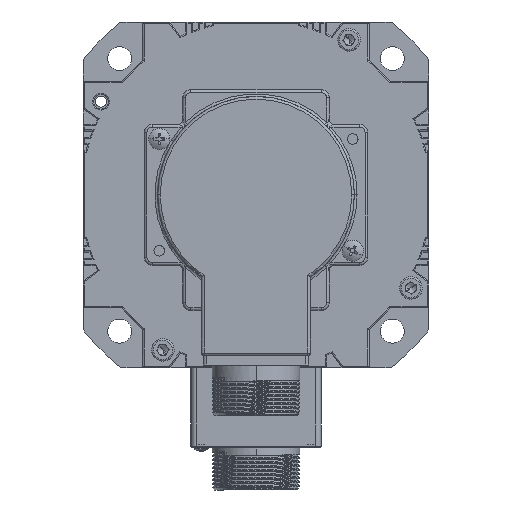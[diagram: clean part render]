
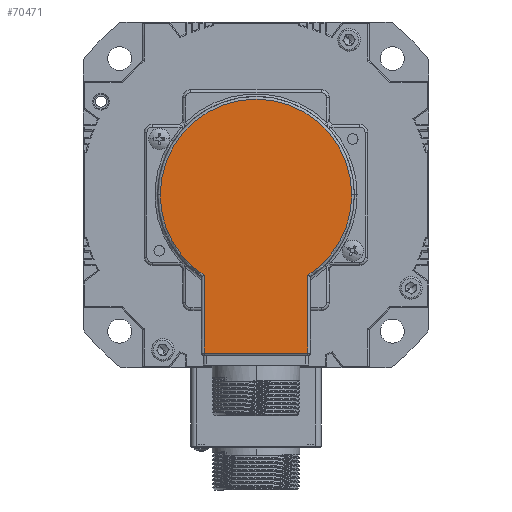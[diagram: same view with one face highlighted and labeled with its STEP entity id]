
A CAD part, front view. The second image highlights one B-rep face of the part: STEP entity #70471.
In plain terms, the highlighted planar face has unit normal (0, -1, 0) as drawn and (0, 0, -1) by its records, which use the part's own axes.
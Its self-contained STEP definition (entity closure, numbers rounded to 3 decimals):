
#646 = DIRECTION ( 'NONE',  ( 0., 0., -1. ) ) ;
#1217 = DIRECTION ( 'NONE',  ( 0., 0., -1. ) ) ;
#4083 = CIRCLE ( 'NONE', #68588, 36. ) ;
#4929 = VERTEX_POINT ( 'NONE', #18164 ) ;
#5444 = EDGE_CURVE ( 'NONE', #5708, #4929, #24228, .T. ) ;
#5708 = VERTEX_POINT ( 'NONE', #38011 ) ;
#6612 = CARTESIAN_POINT ( 'NONE',  ( -19.5, 59.5, -33. ) ) ;
#9641 = EDGE_CURVE ( 'NONE', #4929, #38706, #28112, .T. ) ;
#11363 = AXIS2_PLACEMENT_3D ( 'NONE', #13471, #12735, #52664 ) ;
#11633 = DIRECTION ( 'NONE',  ( 0., -1., 0. ) ) ;
#12735 = DIRECTION ( 'NONE',  ( 0., 0., -1. ) ) ;
#13471 = CARTESIAN_POINT ( 'NONE',  ( 0., 0., -33. ) ) ;
#13622 = ORIENTED_EDGE ( 'NONE', *, *, #52259, .T. ) ;
#14299 = EDGE_LOOP ( 'NONE', ( #71441, #13622, #69651, #35406, #26648, #32189 ) ) ;
#16176 = FACE_OUTER_BOUND ( 'NONE', #14299, .T. ) ;
#17274 = EDGE_CURVE ( 'NONE', #39771, #69620, #4083, .T. ) ;
#18164 = CARTESIAN_POINT ( 'NONE',  ( 19.5, 30.261, -33. ) ) ;
#18310 = LINE ( 'NONE', #24581, #35302 ) ;
#19124 = DIRECTION ( 'NONE',  ( 0., 1., 0. ) ) ;
#20068 = AXIS2_PLACEMENT_3D ( 'NONE', #23596, #1217, #40362 ) ;
#22718 = VECTOR ( 'NONE', #49070, 1000. ) ;
#23596 = CARTESIAN_POINT ( 'NONE',  ( 0., 0., -33. ) ) ;
#24228 = LINE ( 'NONE', #40554, #49268 ) ;
#24581 = CARTESIAN_POINT ( 'NONE',  ( -19.5, 60.5, -33. ) ) ;
#26648 = ORIENTED_EDGE ( 'NONE', *, *, #41942, .T. ) ;
#28112 = CIRCLE ( 'NONE', #11363, 36. ) ;
#29618 = AXIS2_PLACEMENT_3D ( 'NONE', #59698, #71168, #59932 ) ;
#31466 = EDGE_CURVE ( 'NONE', #69620, #68922, #18310, .T. ) ;
#32189 = ORIENTED_EDGE ( 'NONE', *, *, #17274, .T. ) ;
#34616 = CIRCLE ( 'NONE', #20068, 36. ) ;
#34799 = CARTESIAN_POINT ( 'NONE',  ( 0., 0., -33. ) ) ;
#35302 = VECTOR ( 'NONE', #19124, 1000. ) ;
#35406 = ORIENTED_EDGE ( 'NONE', *, *, #9641, .T. ) ;
#38011 = CARTESIAN_POINT ( 'NONE',  ( 19.5, 59.5, -33. ) ) ;
#38706 = VERTEX_POINT ( 'NONE', #61998 ) ;
#39771 = VERTEX_POINT ( 'NONE', #69348 ) ;
#39993 = CARTESIAN_POINT ( 'NONE',  ( -19.5, 30.261, -33. ) ) ;
#40362 = DIRECTION ( 'NONE',  ( -1., 0., 0. ) ) ;
#40554 = CARTESIAN_POINT ( 'NONE',  ( 19.5, 30.802, -33. ) ) ;
#41942 = EDGE_CURVE ( 'NONE', #38706, #39771, #34616, .T. ) ;
#42494 = PLANE ( 'NONE',  #29618 ) ;
#48831 = CARTESIAN_POINT ( 'NONE',  ( 20.5, 59.5, -33. ) ) ;
#49070 = DIRECTION ( 'NONE',  ( 1., 0., 0. ) ) ;
#49268 = VECTOR ( 'NONE', #11633, 1000. ) ;
#52259 = EDGE_CURVE ( 'NONE', #68922, #5708, #65827, .T. ) ;
#52664 = DIRECTION ( 'NONE',  ( -1., 0., 0. ) ) ;
#59698 = CARTESIAN_POINT ( 'NONE',  ( 0., 0., -33. ) ) ;
#59932 = DIRECTION ( 'NONE',  ( -1., 0., 0. ) ) ;
#61998 = CARTESIAN_POINT ( 'NONE',  ( 36., 0., -33. ) ) ;
#63688 = DIRECTION ( 'NONE',  ( -1., 0., 0. ) ) ;
#65827 = LINE ( 'NONE', #48831, #22718 ) ;
#68588 = AXIS2_PLACEMENT_3D ( 'NONE', #34799, #646, #63688 ) ;
#68922 = VERTEX_POINT ( 'NONE', #6612 ) ;
#69348 = CARTESIAN_POINT ( 'NONE',  ( -36., 0., -33. ) ) ;
#69620 = VERTEX_POINT ( 'NONE', #39993 ) ;
#69651 = ORIENTED_EDGE ( 'NONE', *, *, #5444, .T. ) ;
#70471 = ADVANCED_FACE ( 'NONE', ( #16176 ), #42494, .T. ) ;
#71168 = DIRECTION ( 'NONE',  ( 0., 0., -1. ) ) ;
#71441 = ORIENTED_EDGE ( 'NONE', *, *, #31466, .T. ) ;
